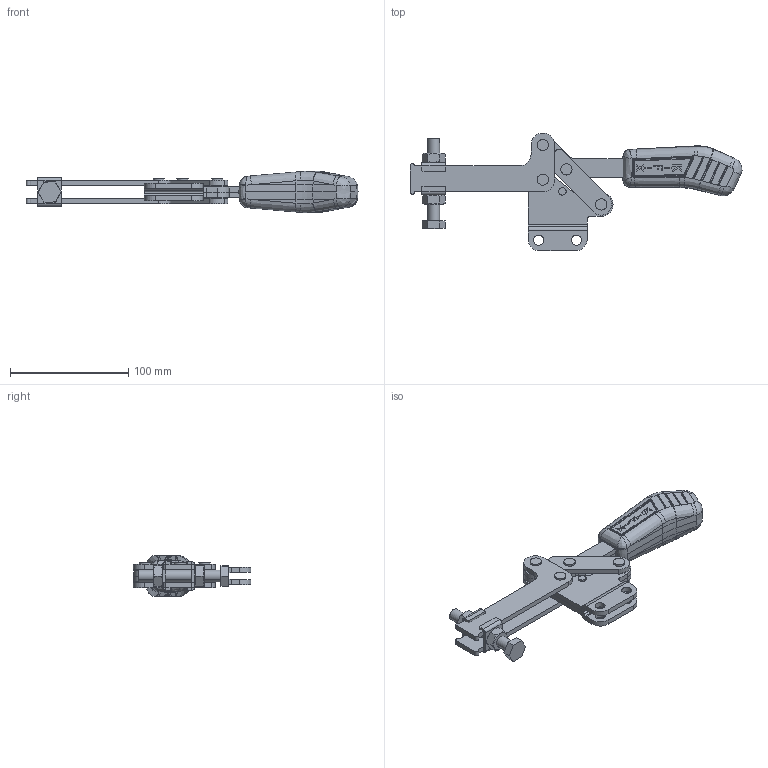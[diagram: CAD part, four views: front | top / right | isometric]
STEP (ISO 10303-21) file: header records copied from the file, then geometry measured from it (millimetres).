
FILE_DESCRIPTION (( 'STEP AP203' ), '1' );
FILE_NAME ('KF-531 RL.STEP', '2014-08-18T14:50:51', ( 'Ricardo' ), ( '' ), 'SwSTEP 2.0', 'SolidWorks 2013', '' );
FILE_SCHEMA (( 'CONFIG_CONTROL_DESIGN' ));
Length unit declared in the file: millimetre
Products named in the file (13): 17.50002; 01.10043; 3670000087; 03.13050; KF-531 RL; 08.10008; 06.50026; 07.60002; 14.10003; 12.50021; 02.11034_Direita; 11.50003; 02.11034_Esquerda
Assembly tree (27 placements, depth 2):
  KF-531 RL
    02.11034_Direita
    02.11034_Esquerda
    01.10043  x2
    03.13050  x2
    08.10008  x2
    06.50026  x4
    07.60002
    14.10003  x2
    12.50021
    11.50003  x2
    17.50002  x8
    3670000087
Bounding box: 281.19 x 99.69 x 35.03 mm (x, y, z)
Volume: 185327.9 mm3; surface area: 81715.2 mm2
Topology: 27 solids, 27 shells, 825 faces, 2002 edges, 1241 vertices
Faces by surface type: plane 287, cylinder 234, bspline 157, cone 92, sphere 52, torus 3
Entity records: 23836 total; most frequent: CARTESIAN_POINT 8901, ORIENTED_EDGE 2990, DIRECTION 2366, EDGE_CURVE 1495, VERTEX_POINT 940, AXIS2_PLACEMENT_3D 898, EDGE_LOOP 667, ADVANCED_FACE 603
